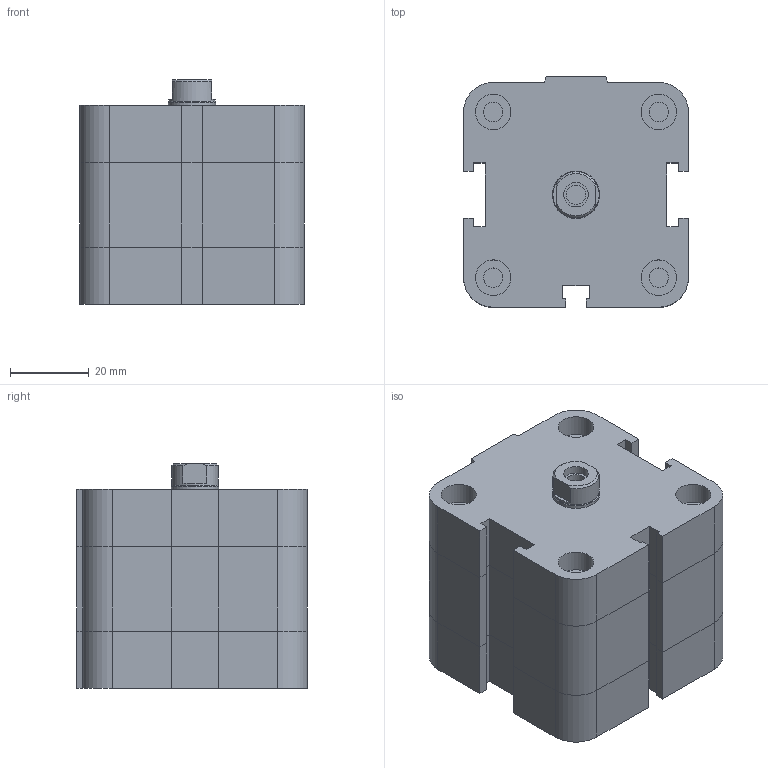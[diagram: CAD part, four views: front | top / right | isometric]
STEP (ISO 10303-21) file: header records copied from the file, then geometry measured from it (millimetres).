
FILE_DESCRIPTION((''),'2;1');
FILE_NAME('I:\Area Tecnica\Disegni\VARIE-3D\Componenti\EUROPE\15##_###_####_01_#\1581_40_0005_01_1.stp','2008-12-19T15:43:23',('rivolro1'),(''),'Autodesk Inventor 2009','Autodesk Inventor 2009','');
FILE_SCHEMA(('AUTOMOTIVE_DESIGN { 1 0 10303 214 1 1 1 1 }'));
Length unit declared in the file: millimetre
Products named in the file (3): 1581_40_0005_01_1; 1581_40_0005_01_1_C; 1561_40_0005_01_1_S
Assembly tree (2 placements, depth 2):
  1581_40_0005_01_1
    1581_40_0005_01_1_C
    1561_40_0005_01_1_S
Bounding box: 57 x 58.5 x 57 mm (x, y, z)
Volume: 148032.2 mm3; surface area: 25408.4 mm2
Topology: 2 solids, 2 shells, 163 faces, 349 edges, 211 vertices
Faces by surface type: plane 112, bspline 26, cylinder 22, cone 3
Full cylindrical faces by diameter (mm): 4.917 x4, 9 x4, 11.7 x1, 12 x1
Entity records: 4455 total; most frequent: CARTESIAN_POINT 952, DIRECTION 662, ORIENTED_EDGE 630, EDGE_CURVE 315, VECTOR 244, LINE 244, AXIS2_PLACEMENT_3D 209, EDGE_LOOP 208
